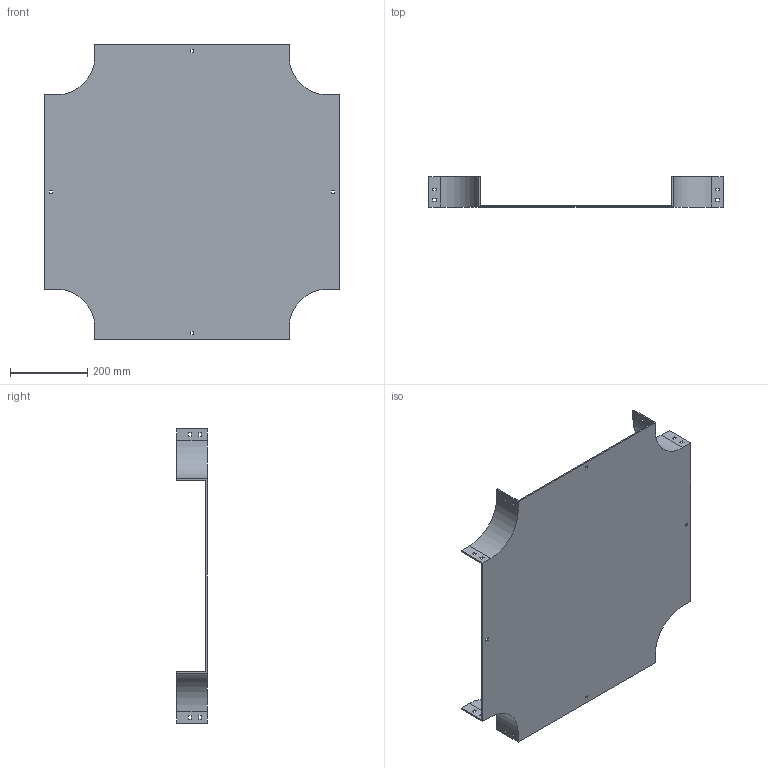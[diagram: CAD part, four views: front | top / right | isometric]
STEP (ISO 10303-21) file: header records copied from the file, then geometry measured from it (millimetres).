
FILE_DESCRIPTION (( 'STEP AP214' ), '1' );
FILE_NAME ('17F1C500.step', '2025-02-21T13:06:24', ( '' ), ( '' ), 'SwSTEP 2.0', 'SolidWorks 2023', '' );
FILE_SCHEMA (( 'AUTOMOTIVE_DESIGN' ));
Length unit declared in the file: millimetre
Products named in the file (1): 17F1C500
Bounding box: 764 x 79 x 764 mm (x, y, z)
Volume: 2064000 mm3; surface area: 1193975.7 mm2
Topology: 1 solids, 1 shells, 114 faces, 336 edges, 224 vertices
Faces by surface type: plane 106, cylinder 8
Entity records: 3839 total; most frequent: CARTESIAN_POINT 675, ORIENTED_EDGE 672, DIRECTION 582, EDGE_CURVE 336, LINE 320, VECTOR 320, VERTEX_POINT 224, EDGE_LOOP 154
